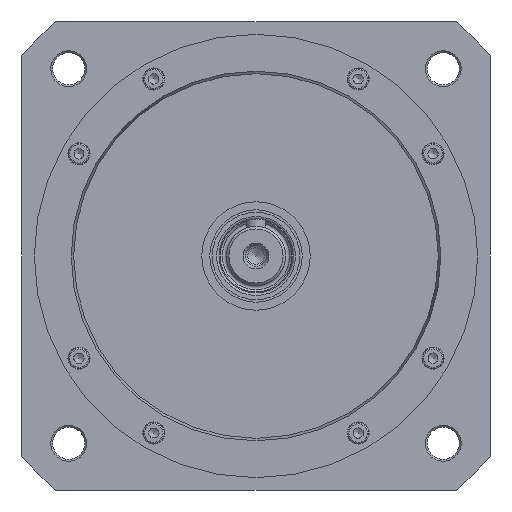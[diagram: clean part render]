
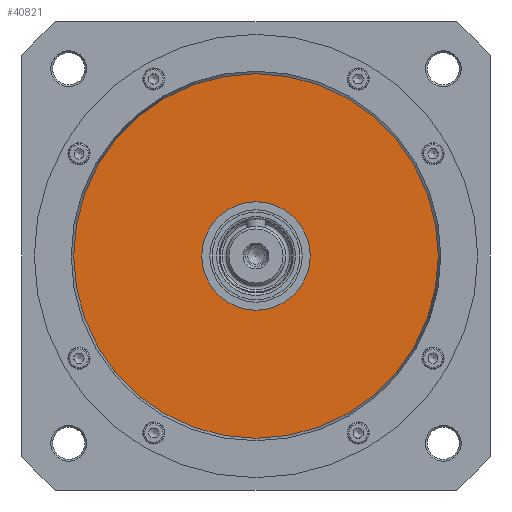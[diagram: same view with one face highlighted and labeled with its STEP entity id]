
A CAD part, left-side view. The second image highlights one B-rep face of the part: STEP entity #40821.
In plain terms, the highlighted planar face has unit normal (-1, 0, 0).
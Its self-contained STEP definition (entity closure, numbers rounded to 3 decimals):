
#5549=FACE_BOUND('',#13973,.T.);
#11313=FACE_OUTER_BOUND('',#13972,.T.);
#13972=EDGE_LOOP('',(#33400));
#13973=EDGE_LOOP('',(#33401));
#16561=CIRCLE('',#45129,22.);
#16562=CIRCLE('',#45131,74.);
#19567=VERTEX_POINT('',#68143);
#19568=VERTEX_POINT('',#68147);
#24443=EDGE_CURVE('',#19567,#19567,#16561,.T.);
#24444=EDGE_CURVE('',#19568,#19568,#16562,.T.);
#33400=ORIENTED_EDGE('',*,*,#24444,.F.);
#33401=ORIENTED_EDGE('',*,*,#24443,.T.);
#39163=PLANE('',#45130);
#40821=ADVANCED_FACE('',(#11313,#5549),#39163,.T.);
#45129=AXIS2_PLACEMENT_3D('',#68145,#54122,#54123);
#45130=AXIS2_PLACEMENT_3D('',#68146,#54124,#54125);
#45131=AXIS2_PLACEMENT_3D('',#68148,#54126,#54127);
#54122=DIRECTION('center_axis',(1.,0.,0.));
#54123=DIRECTION('ref_axis',(0.,1.,0.));
#54124=DIRECTION('center_axis',(-1.,0.,0.));
#54125=DIRECTION('ref_axis',(0.,-1.,0.));
#54126=DIRECTION('center_axis',(1.,0.,0.));
#54127=DIRECTION('ref_axis',(0.,1.,0.));
#68143=CARTESIAN_POINT('',(-102.7,0.,-22.));
#68145=CARTESIAN_POINT('Origin',(-102.7,0.,0.));
#68146=CARTESIAN_POINT('Origin',(-102.7,0.,74.));
#68147=CARTESIAN_POINT('',(-102.7,0.,-74.));
#68148=CARTESIAN_POINT('Origin',(-102.7,0.,0.));
